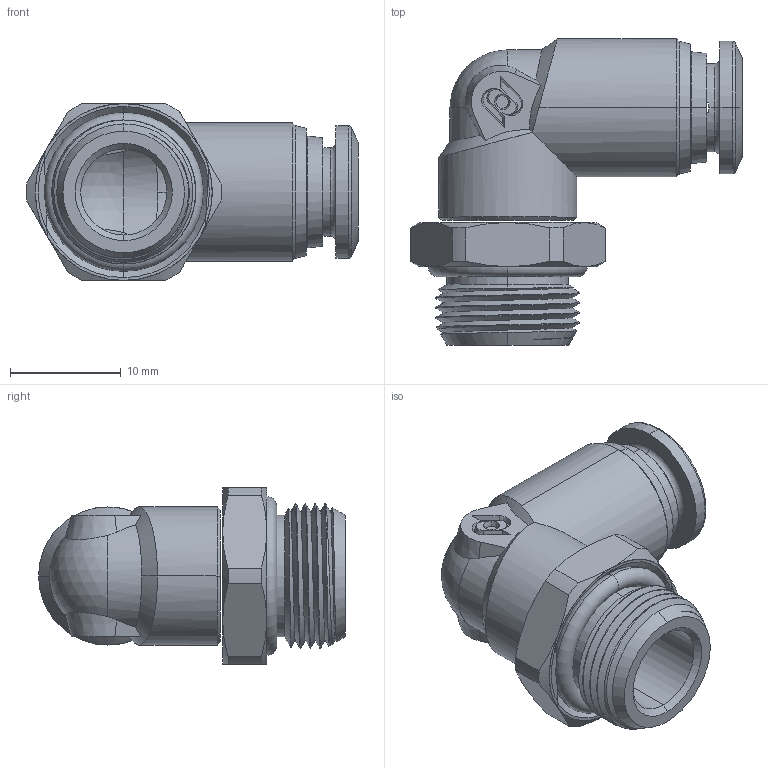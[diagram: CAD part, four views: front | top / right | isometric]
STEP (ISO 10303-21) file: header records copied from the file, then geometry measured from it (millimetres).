
FILE_DESCRIPTION (( 'STEP AP214' ), '1' );
FILE_NAME ('40116V0009A.STEP', '2016-05-18T12:13:28', ( '' ), ( '' ), 'SwSTEP 2.0', 'SolidWorks 2016', '' );
FILE_SCHEMA (( 'AUTOMOTIVE_DESIGN' ));
Length unit declared in the file: millimetre
Products named in the file (1): 40116V0009A
Bounding box: 30.05 x 27.75 x 16 mm (x, y, z)
Surface area: 3076.4 mm2 (no closed solid volume)
Topology: 0 solids, 7 shells, 157 faces, 422 edges, 273 vertices
Faces by surface type: cone 49, plane 49, cylinder 40, torus 12, bspline 6, sphere 1
Entity records: 8001 total; most frequent: CARTESIAN_POINT 2475, ORIENTED_EDGE 781, DIRECTION 777, EDGE_CURVE 422, AXIS2_PLACEMENT_3D 314, VERTEX_POINT 273, EDGE_LOOP 172, CIRCLE 162
